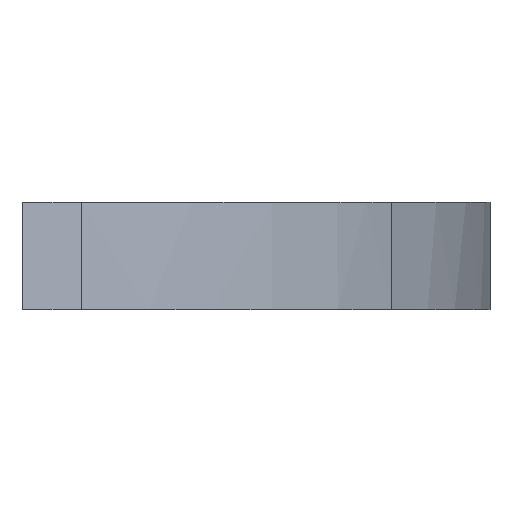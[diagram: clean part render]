
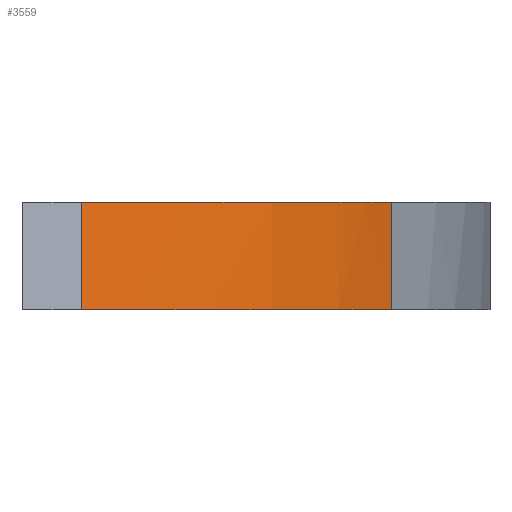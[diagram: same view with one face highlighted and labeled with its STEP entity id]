
A CAD part, left-side view. The second image highlights one B-rep face of the part: STEP entity #3559.
In plain terms, the highlighted free-form (B-spline) face has degree [3, 1] with [6, 2] control points.
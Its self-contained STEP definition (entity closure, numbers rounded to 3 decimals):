
#238=FACE_OUTER_BOUND('',#425,.T.);
#425=EDGE_LOOP('',(#2821,#2822,#2823,#2824));
#628=LINE('',#6566,#819);
#629=LINE('',#6593,#820);
#819=VECTOR('',#3857,10.);
#820=VECTOR('',#3858,10.);
#1162=(
BOUNDED_CURVE()
B_SPLINE_CURVE(3,(#6580,#6581,#6582,#6583,#6584,#6585),.UNSPECIFIED.,.F.,
 .F.)
B_SPLINE_CURVE_WITH_KNOTS((4,2,4),(-5.157,-4.274,
-3.556),.UNSPECIFIED.)
CURVE()
GEOMETRIC_REPRESENTATION_ITEM()
RATIONAL_B_SPLINE_CURVE((1.,1.,1.,1.,1.,1.))
REPRESENTATION_ITEM('')
);
#1163=(
BOUNDED_CURVE()
B_SPLINE_CURVE(3,(#6587,#6588,#6589,#6590,#6591,#6592),.UNSPECIFIED.,.F.,
 .F.)
B_SPLINE_CURVE_WITH_KNOTS((4,2,4),(3.556,4.274,5.157),
 .UNSPECIFIED.)
CURVE()
GEOMETRIC_REPRESENTATION_ITEM()
RATIONAL_B_SPLINE_CURVE((1.,1.,1.,1.,1.,1.))
REPRESENTATION_ITEM('')
);
#1532=VERTEX_POINT('',#6548);
#1533=VERTEX_POINT('',#6557);
#1534=VERTEX_POINT('',#6579);
#1535=VERTEX_POINT('',#6586);
#2084=EDGE_CURVE('',#1532,#1533,#628,.T.);
#2085=EDGE_CURVE('',#1532,#1534,#1162,.T.);
#2086=EDGE_CURVE('',#1535,#1533,#1163,.T.);
#2087=EDGE_CURVE('',#1534,#1535,#629,.T.);
#2821=ORIENTED_EDGE('',*,*,#2085,.F.);
#2822=ORIENTED_EDGE('',*,*,#2084,.T.);
#2823=ORIENTED_EDGE('',*,*,#2086,.F.);
#2824=ORIENTED_EDGE('',*,*,#2087,.F.);
#3374=(
BOUNDED_SURFACE()
B_SPLINE_SURFACE(3,1,((#6567,#6568),(#6569,#6570),(#6571,#6572),(#6573,
#6574),(#6575,#6576),(#6577,#6578)),.UNSPECIFIED.,.F.,.F.,.F.)
B_SPLINE_SURFACE_WITH_KNOTS((4,2,4),(2,2),(3.556,4.274,
5.157),(0.,0.4),.UNSPECIFIED.)
GEOMETRIC_REPRESENTATION_ITEM()
RATIONAL_B_SPLINE_SURFACE(((1.,1.),(1.,1.),(1.,1.),(1.,1.),(1.,1.),(1.,
1.)))
REPRESENTATION_ITEM('')
SURFACE()
);
#3559=ADVANCED_FACE('',(#238),#3374,.T.);
#3857=DIRECTION('',(0.,0.,1.));
#3858=DIRECTION('',(0.,0.,1.));
#6548=CARTESIAN_POINT('',(-12.596,-161.696,0.));
#6557=CARTESIAN_POINT('',(-12.596,-161.696,4.));
#6566=CARTESIAN_POINT('',(-12.596,-161.696,0.));
#6567=CARTESIAN_POINT('Ctrl Pts',(-22.274,-150.107,0.));
#6568=CARTESIAN_POINT('Ctrl Pts',(-22.274,-150.107,4.));
#6569=CARTESIAN_POINT('Ctrl Pts',(-21.366,-152.254,0.));
#6570=CARTESIAN_POINT('Ctrl Pts',(-21.366,-152.254,4.));
#6571=CARTESIAN_POINT('Ctrl Pts',(-20.246,-154.291,0.));
#6572=CARTESIAN_POINT('Ctrl Pts',(-20.246,-154.291,4.));
#6573=CARTESIAN_POINT('Ctrl Pts',(-17.15,-158.37,0.));
#6574=CARTESIAN_POINT('Ctrl Pts',(-17.15,-158.37,4.));
#6575=CARTESIAN_POINT('Ctrl Pts',(-15.026,-160.277,0.));
#6576=CARTESIAN_POINT('Ctrl Pts',(-15.026,-160.277,4.));
#6577=CARTESIAN_POINT('Ctrl Pts',(-12.596,-161.696,0.));
#6578=CARTESIAN_POINT('Ctrl Pts',(-12.596,-161.696,4.));
#6579=CARTESIAN_POINT('',(-22.274,-150.107,0.));
#6580=CARTESIAN_POINT('Ctrl Pts',(-12.596,-161.696,0.));
#6581=CARTESIAN_POINT('Ctrl Pts',(-15.026,-160.277,0.));
#6582=CARTESIAN_POINT('Ctrl Pts',(-17.15,-158.37,0.));
#6583=CARTESIAN_POINT('Ctrl Pts',(-20.246,-154.291,0.));
#6584=CARTESIAN_POINT('Ctrl Pts',(-21.366,-152.254,0.));
#6585=CARTESIAN_POINT('Ctrl Pts',(-22.274,-150.107,0.));
#6586=CARTESIAN_POINT('',(-22.274,-150.107,4.));
#6587=CARTESIAN_POINT('Ctrl Pts',(-22.274,-150.107,4.));
#6588=CARTESIAN_POINT('Ctrl Pts',(-21.366,-152.254,4.));
#6589=CARTESIAN_POINT('Ctrl Pts',(-20.246,-154.291,4.));
#6590=CARTESIAN_POINT('Ctrl Pts',(-17.15,-158.37,4.));
#6591=CARTESIAN_POINT('Ctrl Pts',(-15.026,-160.277,4.));
#6592=CARTESIAN_POINT('Ctrl Pts',(-12.596,-161.696,4.));
#6593=CARTESIAN_POINT('',(-22.274,-150.107,0.));
